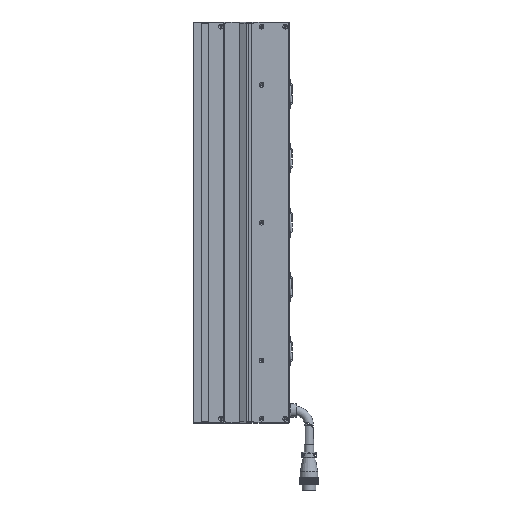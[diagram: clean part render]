
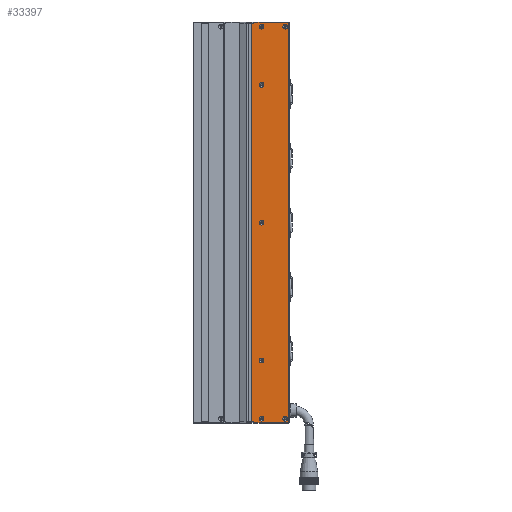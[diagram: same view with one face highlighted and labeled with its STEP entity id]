
A CAD part, left-side view. The second image highlights one B-rep face of the part: STEP entity #33397.
In plain terms, the highlighted planar face has unit normal (-1, 0, 0).
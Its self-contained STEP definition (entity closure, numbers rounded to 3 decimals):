
#1946 = DIRECTION ( 'NONE',  ( 0., 0., 1. ) ) ;
#2016 = DIRECTION ( 'NONE',  ( 0., 1., 0. ) ) ;
#3840 = VERTEX_POINT ( 'NONE', #56082 ) ;
#3881 = CIRCLE ( 'NONE', #75158, 3.15 ) ;
#4518 = FACE_BOUND ( 'NONE', #61374, .T. ) ;
#5612 = CARTESIAN_POINT ( 'NONE',  ( -24.998, -23.25, 260. ) ) ;
#5930 = CARTESIAN_POINT ( 'NONE',  ( -24.998, -67.5, -252.85 ) ) ;
#7896 = LINE ( 'NONE', #72289, #74332 ) ;
#8290 = ORIENTED_EDGE ( 'NONE', *, *, #88722, .F. ) ;
#8869 = EDGE_CURVE ( 'NONE', #51096, #36904, #99730, .T. ) ;
#9795 = FACE_BOUND ( 'NONE', #81607, .T. ) ;
#10742 = VECTOR ( 'NONE', #2016, 1000. ) ;
#10894 = CARTESIAN_POINT ( 'NONE',  ( -24.998, -23.25, -260. ) ) ;
#11659 = DIRECTION ( 'NONE',  ( 0., 0., 1. ) ) ;
#12494 = CARTESIAN_POINT ( 'NONE',  ( -24.998, -72.5, 260. ) ) ;
#12553 = AXIS2_PLACEMENT_3D ( 'NONE', #33148, #84052, #32793 ) ;
#12625 = DIRECTION ( 'NONE',  ( 0., 0., 1. ) ) ;
#12709 = ORIENTED_EDGE ( 'NONE', *, *, #38700, .T. ) ;
#13472 = LINE ( 'NONE', #68907, #10742 ) ;
#13724 = LINE ( 'NONE', #17165, #17743 ) ;
#13986 = DIRECTION ( 'NONE',  ( 0., 0., -1. ) ) ;
#14063 = DIRECTION ( 'NONE',  ( -1., 0., 0. ) ) ;
#14299 = VERTEX_POINT ( 'NONE', #68540 ) ;
#14595 = DIRECTION ( 'NONE',  ( 0., -1., 0. ) ) ;
#15640 = VERTEX_POINT ( 'NONE', #5612 ) ;
#16419 = DIRECTION ( 'NONE',  ( -1., 0., 0. ) ) ;
#16569 = EDGE_CURVE ( 'NONE', #45561, #20962, #84762, .T. ) ;
#16644 = CARTESIAN_POINT ( 'NONE',  ( -24.998, -72., 261.5 ) ) ;
#17165 = CARTESIAN_POINT ( 'NONE',  ( -24.998, -26.5, -253. ) ) ;
#17743 = VECTOR ( 'NONE', #26784, 1000. ) ;
#17795 = FACE_OUTER_BOUND ( 'NONE', #82365, .T. ) ;
#19032 = DIRECTION ( 'NONE',  ( -1., 0., 0. ) ) ;
#20022 = DIRECTION ( 'NONE',  ( 0., -1., 0. ) ) ;
#20962 = VERTEX_POINT ( 'NONE', #31361 ) ;
#22668 = CARTESIAN_POINT ( 'NONE',  ( -24.998, -67.5, 259.15 ) ) ;
#22757 = ORIENTED_EDGE ( 'NONE', *, *, #39287, .F. ) ;
#23247 = DIRECTION ( 'NONE',  ( -1., 0., 0. ) ) ;
#23499 = DIRECTION ( 'NONE',  ( 0., 0., -1. ) ) ;
#24988 = CARTESIAN_POINT ( 'NONE',  ( -24.998, -36.5, 180. ) ) ;
#25801 = CARTESIAN_POINT ( 'NONE',  ( -24.998, -72., -261.5 ) ) ;
#26341 = VECTOR ( 'NONE', #23499, 1000. ) ;
#26784 = DIRECTION ( 'NONE',  ( 0., 0., 1. ) ) ;
#27769 = EDGE_CURVE ( 'NONE', #37060, #30513, #13724, .T. ) ;
#28171 = CIRCLE ( 'NONE', #70421, 3.15 ) ;
#29777 = ORIENTED_EDGE ( 'NONE', *, *, #36359, .F. ) ;
#29943 = PLANE ( 'NONE',  #65809 ) ;
#30513 = VERTEX_POINT ( 'NONE', #87865 ) ;
#30709 = DIRECTION ( 'NONE',  ( 1., 0., 0. ) ) ;
#30805 = EDGE_CURVE ( 'NONE', #34392, #34392, #97829, .T. ) ;
#31361 = CARTESIAN_POINT ( 'NONE',  ( -24.998, -26.5, 260. ) ) ;
#32793 = DIRECTION ( 'NONE',  ( 0., 0., 1. ) ) ;
#33148 = CARTESIAN_POINT ( 'NONE',  ( -24.998, -67.5, 256. ) ) ;
#33397 = ADVANCED_FACE ( 'NONE', ( #98824, #66973, #44315, #9795, #109465, #81547, #4518, #17795 ), #29943, .F. ) ;
#33446 = DIRECTION ( 'NONE',  ( -1., 0., 0. ) ) ;
#34392 = VERTEX_POINT ( 'NONE', #5930 ) ;
#34890 = DIRECTION ( 'NONE',  ( 0., 0., 1. ) ) ;
#35343 = CIRCLE ( 'NONE', #87138, 3.15 ) ;
#36359 = EDGE_CURVE ( 'NONE', #50402, #50402, #90390, .T. ) ;
#36458 = CARTESIAN_POINT ( 'NONE',  ( -24.998, -36.5, -180. ) ) ;
#36652 = EDGE_CURVE ( 'NONE', #3840, #3840, #57132, .T. ) ;
#36716 = VECTOR ( 'NONE', #20022, 1000. ) ;
#36904 = VERTEX_POINT ( 'NONE', #16644 ) ;
#37060 = VERTEX_POINT ( 'NONE', #49741 ) ;
#38221 = CARTESIAN_POINT ( 'NONE',  ( -24.998, -36.5, 0. ) ) ;
#38700 = EDGE_CURVE ( 'NONE', #36904, #45561, #7896, .T. ) ;
#39287 = EDGE_CURVE ( 'NONE', #66328, #66328, #95444, .T. ) ;
#40552 = LINE ( 'NONE', #10894, #83096 ) ;
#43454 = VERTEX_POINT ( 'NONE', #61810 ) ;
#43585 = CARTESIAN_POINT ( 'NONE',  ( -24.998, -72., 260. ) ) ;
#44315 = FACE_BOUND ( 'NONE', #95510, .T. ) ;
#45561 = VERTEX_POINT ( 'NONE', #99639 ) ;
#46121 = EDGE_LOOP ( 'NONE', ( #29777 ) ) ;
#48924 = EDGE_LOOP ( 'NONE', ( #22757 ) ) ;
#49741 = CARTESIAN_POINT ( 'NONE',  ( -24.998, -26.5, -261.5 ) ) ;
#50402 = VERTEX_POINT ( 'NONE', #22668 ) ;
#51096 = VERTEX_POINT ( 'NONE', #25801 ) ;
#51781 = DIRECTION ( 'NONE',  ( 0., 0., 1. ) ) ;
#51812 = ORIENTED_EDGE ( 'NONE', *, *, #91403, .F. ) ;
#52281 = EDGE_CURVE ( 'NONE', #15640, #20962, #71745, .T. ) ;
#52745 = EDGE_LOOP ( 'NONE', ( #95335 ) ) ;
#54162 = ORIENTED_EDGE ( 'NONE', *, *, #16569, .T. ) ;
#55789 = ORIENTED_EDGE ( 'NONE', *, *, #27769, .F. ) ;
#56082 = CARTESIAN_POINT ( 'NONE',  ( -24.998, -36.5, -252.85 ) ) ;
#56646 = CARTESIAN_POINT ( 'NONE',  ( -24.998, -23.25, -260. ) ) ;
#57132 = CIRCLE ( 'NONE', #58154, 3.15 ) ;
#58154 = AXIS2_PLACEMENT_3D ( 'NONE', #88392, #63537, #12625 ) ;
#59880 = ORIENTED_EDGE ( 'NONE', *, *, #80919, .T. ) ;
#60080 = EDGE_CURVE ( 'NONE', #88798, #15640, #40552, .T. ) ;
#61374 = EDGE_LOOP ( 'NONE', ( #103832 ) ) ;
#61810 = CARTESIAN_POINT ( 'NONE',  ( -24.998, -36.5, -176.85 ) ) ;
#63537 = DIRECTION ( 'NONE',  ( -1., 0., 0. ) ) ;
#63847 = EDGE_LOOP ( 'NONE', ( #73962 ) ) ;
#65809 = AXIS2_PLACEMENT_3D ( 'NONE', #12494, #30709, #13986 ) ;
#66328 = VERTEX_POINT ( 'NONE', #99160 ) ;
#66973 = FACE_BOUND ( 'NONE', #63847, .T. ) ;
#67704 = DIRECTION ( 'NONE',  ( 0., 0., 1. ) ) ;
#68147 = EDGE_CURVE ( 'NONE', #98029, #98029, #28171, .T. ) ;
#68540 = CARTESIAN_POINT ( 'NONE',  ( -24.998, -36.5, 259.15 ) ) ;
#68907 = CARTESIAN_POINT ( 'NONE',  ( -24.998, -72.5, -261.5 ) ) ;
#69343 = ORIENTED_EDGE ( 'NONE', *, *, #68147, .F. ) ;
#69798 = ORIENTED_EDGE ( 'NONE', *, *, #8869, .T. ) ;
#70421 = AXIS2_PLACEMENT_3D ( 'NONE', #38221, #14063, #107297 ) ;
#71745 = LINE ( 'NONE', #74748, #91707 ) ;
#72289 = CARTESIAN_POINT ( 'NONE',  ( -24.998, -72.5, 261.5 ) ) ;
#73962 = ORIENTED_EDGE ( 'NONE', *, *, #76172, .F. ) ;
#74332 = VECTOR ( 'NONE', #90116, 1000. ) ;
#74748 = CARTESIAN_POINT ( 'NONE',  ( -24.998, -72.5, 260. ) ) ;
#75158 = AXIS2_PLACEMENT_3D ( 'NONE', #36458, #19032, #1946 ) ;
#76172 = EDGE_CURVE ( 'NONE', #14299, #14299, #35343, .T. ) ;
#76691 = CARTESIAN_POINT ( 'NONE',  ( -24.998, -36.5, 3.15 ) ) ;
#80919 = EDGE_CURVE ( 'NONE', #88798, #30513, #100612, .T. ) ;
#81547 = FACE_BOUND ( 'NONE', #52745, .T. ) ;
#81607 = EDGE_LOOP ( 'NONE', ( #69343 ) ) ;
#82312 = DIRECTION ( 'NONE',  ( 0., 0., 1. ) ) ;
#82365 = EDGE_LOOP ( 'NONE', ( #59880, #55789, #8290, #69798, #12709, #54162, #90977, #101177 ) ) ;
#83096 = VECTOR ( 'NONE', #11659, 1000. ) ;
#84052 = DIRECTION ( 'NONE',  ( -1., 0., 0. ) ) ;
#84762 = LINE ( 'NONE', #91088, #26341 ) ;
#87138 = AXIS2_PLACEMENT_3D ( 'NONE', #102843, #33446, #34890 ) ;
#87865 = CARTESIAN_POINT ( 'NONE',  ( -24.998, -26.5, -260. ) ) ;
#88392 = CARTESIAN_POINT ( 'NONE',  ( -24.998, -36.5, -256. ) ) ;
#88722 = EDGE_CURVE ( 'NONE', #51096, #37060, #13472, .T. ) ;
#88798 = VERTEX_POINT ( 'NONE', #56646 ) ;
#90101 = CARTESIAN_POINT ( 'NONE',  ( -24.998, -67.5, -256. ) ) ;
#90116 = DIRECTION ( 'NONE',  ( 0., 1., 0. ) ) ;
#90390 = CIRCLE ( 'NONE', #12553, 3.15 ) ;
#90440 = VECTOR ( 'NONE', #51781, 1000. ) ;
#90977 = ORIENTED_EDGE ( 'NONE', *, *, #52281, .F. ) ;
#90997 = AXIS2_PLACEMENT_3D ( 'NONE', #24988, #16419, #67704 ) ;
#91088 = CARTESIAN_POINT ( 'NONE',  ( -24.998, -26.5, 253. ) ) ;
#91403 = EDGE_CURVE ( 'NONE', #43454, #43454, #3881, .T. ) ;
#91707 = VECTOR ( 'NONE', #14595, 1000. ) ;
#95335 = ORIENTED_EDGE ( 'NONE', *, *, #30805, .F. ) ;
#95444 = CIRCLE ( 'NONE', #90997, 3.15 ) ;
#95510 = EDGE_LOOP ( 'NONE', ( #51812 ) ) ;
#97829 = CIRCLE ( 'NONE', #106952, 3.15 ) ;
#98029 = VERTEX_POINT ( 'NONE', #76691 ) ;
#98824 = FACE_BOUND ( 'NONE', #46121, .T. ) ;
#99160 = CARTESIAN_POINT ( 'NONE',  ( -24.998, -36.5, 183.15 ) ) ;
#99639 = CARTESIAN_POINT ( 'NONE',  ( -24.998, -26.5, 261.5 ) ) ;
#99730 = LINE ( 'NONE', #43585, #90440 ) ;
#100612 = LINE ( 'NONE', #105421, #36716 ) ;
#101177 = ORIENTED_EDGE ( 'NONE', *, *, #60080, .F. ) ;
#102843 = CARTESIAN_POINT ( 'NONE',  ( -24.998, -36.5, 256. ) ) ;
#103832 = ORIENTED_EDGE ( 'NONE', *, *, #36652, .F. ) ;
#105421 = CARTESIAN_POINT ( 'NONE',  ( -24.998, -72.5, -260. ) ) ;
#106952 = AXIS2_PLACEMENT_3D ( 'NONE', #90101, #23247, #82312 ) ;
#107297 = DIRECTION ( 'NONE',  ( 0., 0., 1. ) ) ;
#109465 = FACE_BOUND ( 'NONE', #48924, .T. ) ;
